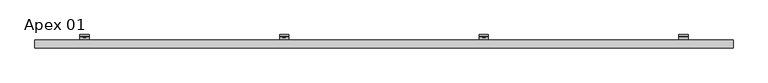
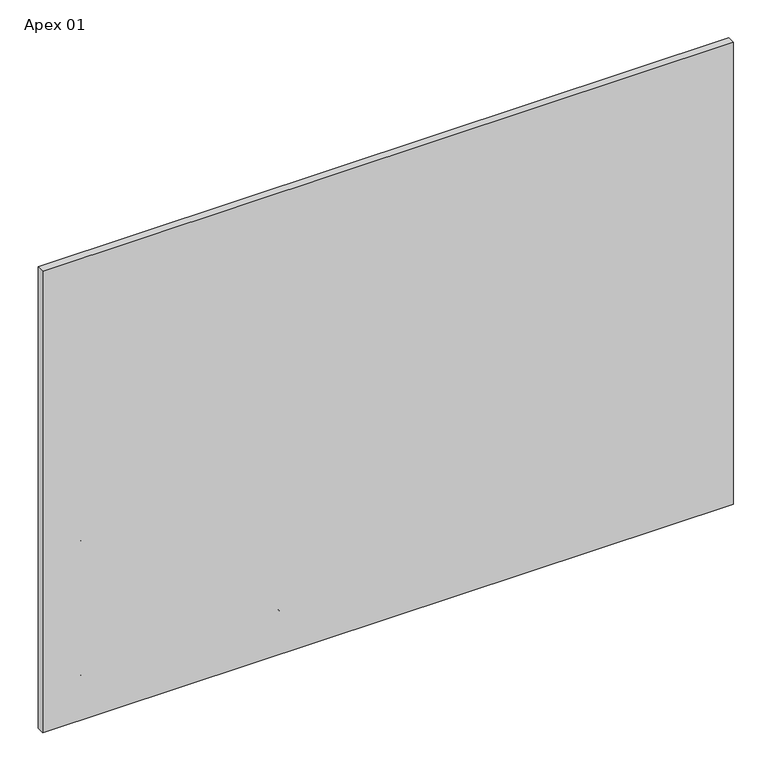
"""IFC4 building model written with IfcOpenShell, lengths in millimetres: plate geometry, Single-Panel-Perforated-Amico_Architectural : Apex 01."""

from ifc_helpers import new_model, si_unit, point, frame, frame_2d, origin, place, context, project, spatial, polyline, circle_curve, trimmed, segment, composite_curve, outline, extrude, source, transform, mapped, element, save
from ifc_brep_helpers import plane_surface, cylinder_surface, revolved_surface, advanced_brep


def apex_01_d99c7350(model_context):
    return source(origin(), model_context, "Body", "SolidModel", [
        advanced_brep(
        [(1209.675, -47.625, 742.6471875), (1209.675, -51.2819443, 734.985155), (1209.675, -89.5163624, 708.2131273), (1209.675, -92.9330442, 711.6298091), (1209.675, -54.3526876, 738.6440656), (1209.675, -52.4002, 742.6472583), (1209.675, -52.4002, 776.8398726), (1209.675, -47.625, 776.8398726), (1247.775, -47.625, 742.6471875), (1247.775, -47.625, 776.8398726), (1247.775, -52.4002, 776.8398726), (1247.775, -52.4002, 742.6472583), (1247.775, -54.3526876, 738.6440656), (1247.775, -92.9330442, 711.6298091), (1247.775, -89.5163624, 708.2131273), (1247.775, -51.2819443, 734.985155), (1235.4661889, -52.4002, 762.7946564), (1235.4661889, -52.4002, 756.4446564), (1219.2383287, -52.4002, 756.4446564), (1219.2383287, -52.4002, 762.7946564), (1235.4661889, -47.625, 756.4446564), (1235.4661889, -47.625, 762.7946564), (1219.2383287, -47.625, 762.7946564), (1219.2383287, -47.625, 756.4446564)],
        [
            (0, 1, circle_curve(frame((1209.675, -57.4802202, 742.6471875), z_axis=(-1.0, 0.0, 0.0), x_axis=(0.0, -1.0, 0.0)), 9.8552202)),
            (1, 2),
            (2, 3),
            (3, 4),
            (4, 5, circle_curve(frame((1209.675, -57.4803246, 742.6472583), z_axis=(1.0, 0.0, 0.0), x_axis=(0.0, -1.0, 0.0)), 5.0801246)),
            (5, 6),
            (6, 7),
            (7, 0),
            (8, 9),
            (9, 10),
            (10, 11),
            (11, 12, circle_curve(frame((1247.775, -57.4803246, 742.6472583), z_axis=(-1.0, 0.0, 0.0), x_axis=(0.0, -1.0, 0.0)), 5.0801246)),
            (12, 13),
            (13, 14),
            (14, 15),
            (15, 8, circle_curve(frame((1247.775, -57.4802202, 742.6471875), z_axis=(1.0, 0.0, 0.0), x_axis=(0.0, -1.0, 0.0)), 9.8552202)),
            (4, 12),
            (11, 5),
            (10, 6),
            (16, 17, circle_curve(frame((1235.4661889, -52.4002, 759.6196564), z_axis=(0.0, 1.0, 0.0), x_axis=(0.0, 0.0, -1.0)), 3.175)),
            (17, 18),
            (18, 19, circle_curve(frame((1219.2383287, -52.4002, 759.6196564), z_axis=(0.0, 1.0, 0.0), x_axis=(0.0, 0.0, -1.0)), 3.175)),
            (19, 16),
            (9, 7),
            (8, 0),
            (20, 21, circle_curve(frame((1235.4661889, -47.625, 759.6196564), z_axis=(0.0, -1.0, 0.0), x_axis=(0.0, 0.0, -1.0)), 3.175)),
            (21, 22),
            (22, 23, circle_curve(frame((1219.2383287, -47.625, 759.6196564), z_axis=(0.0, -1.0, 0.0), x_axis=(0.0, 0.0, -1.0)), 3.175)),
            (23, 20),
            (15, 1),
            (20, 17),
            (16, 21),
            (19, 22),
            (18, 23),
            (14, 2),
            (13, 3),
        ],
        [
            plane_surface(frame((1209.675, -67.3354404, 742.6471875), z_axis=(-1.0, 0.0, 0.0), x_axis=(0.0, 0.0, 1.0))),
            plane_surface(frame((1247.775, -67.3354404, 742.6471875), z_axis=(1.0, 0.0, 0.0), x_axis=(0.0, 0.0, -1.0))),
            revolved_surface(polyline([(1247.775, -62.5604492, 742.6472583), (1209.675, -62.5604492, 742.6472583)]), (1247.775, -57.4803246, 742.6472583), (1.0, 0.0, 0.0)),
            plane_surface(frame((1209.675, -52.4002, 742.6472583), z_axis=(0.0, -1.0, 0.0), x_axis=(1.0, 0.0, 0.0))),
            plane_surface(frame((1209.675, -52.4002, 776.8398726), z_axis=(0.0, 0.0, 1.0), x_axis=(1.0, 0.0, 0.0))),
            plane_surface(frame((1209.675, -47.625, 776.8398726), z_axis=(0.0, 1.0, 6.99569853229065e-12), x_axis=(1.0, 0.0, 0.0))),
            cylinder_surface(frame((1247.775, -57.4802202, 742.6471875), z_axis=(-1.0, 0.0, 0.0), x_axis=(0.0, -1.0, 0.0)), 9.8552202),
            revolved_surface(polyline([(1235.4661889, -52.4002, 756.4446564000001), (1235.4661889, -47.625, 756.4446564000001)]), (1235.4661889, -25.6669948, 759.6196564), (0.0, -1.0, 0.0)),
            plane_surface(frame((1235.4661889, -86.677982, 762.7946564), z_axis=(0.0, 0.0, -1.0), x_axis=(0.0, 1.0, 0.0))),
            revolved_surface(polyline([(1219.2383287, -52.4002, 756.4446564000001), (1219.2383287, -47.625, 756.4446564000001)]), (1219.2383287, -25.6669948, 759.6196564), (0.0, -1.0, 0.0)),
            plane_surface(frame((1219.2383287, -86.677982, 756.4446564), z_axis=(-2.7237733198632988e-11, 0.0, 1.0), x_axis=(0.0, 1.0, 0.0))),
            plane_surface(frame((1209.675, -51.2819443, 734.985155), z_axis=(0.0, 0.5735764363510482, -0.8191520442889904), x_axis=(1.0, 0.0, 0.0))),
            plane_surface(frame((1209.675, -89.5163624, 708.2131273), z_axis=(0.0, -0.7071067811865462, -0.7071067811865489), x_axis=(1.0, 0.0, 0.0))),
            plane_surface(frame((1209.675, -92.9330442, 711.6298091), z_axis=(0.0, -0.5735764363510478, 0.8191520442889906), x_axis=(1.0, 0.0, 0.0))),
        ],
        [
            (0, [[1, 2, 3, 4, 5, 6, 7, 8]]),
            (1, [[9, 10, 11, 12, 13, 14, 15, 16]]),
            (2, [[-5, 17, -12, 18]]),
            (3, [[-6, -18, -11, 19], [20, 21, 22, 23]]),
            (4, [[-7, -19, -10, 24]]),
            (5, [[-8, -24, -9, 25], [26, 27, 28, 29]]),
            (6, [[-1, -25, -16, 30]]),
            (7, [[31, -20, 32, -26]]),
            (8, [[-32, -23, 33, -27]]),
            (9, [[-33, -22, 34, -28]]),
            (10, [[-31, -29, -34, -21]]),
            (11, [[-2, -30, -15, 35]]),
            (12, [[-3, -35, -14, 36]]),
            (13, [[-4, -36, -13, -17]]),
        ],
    ),
        extrude(outline(polyline([(759.7964995, 404.5570034), (755.450787, 407.0660017), (755.450787, 412.0839983), (759.7964995, 414.5929966), (764.1422121, 412.0839983), (764.1422121, 407.0660017), (759.7964995, 404.5570034)])), frame((0.0, -58.7607779, 0.0), z_axis=(0.0, 1.0, 0.0), x_axis=(0.0, 0.0, 1.0)), (0.0, 0.0, 1.0), 11.1357779),
        extrude(outline(composite_curve([segment(trimmed(circle_curve(frame_2d((759.8898065, 409.575)), 6.35), [point((759.8898065, 415.925))], [point((759.8898065, 403.225))], False, "CARTESIAN"), True, "CONTINUOUS"), segment(trimmed(circle_curve(frame_2d((759.8898065, 409.575)), 6.35), [point((759.8898065, 403.225))], [point((759.8898065, 415.925))], False, "CARTESIAN"), True, "CONTINUOUS")], self_intersect=False)), frame((0.0, -57.0817743, 0.0), z_axis=(0.0, 1.0, 0.0), x_axis=(0.0, 0.0, 1.0)), (0.0, 0.0, 1.0), 9.4567743),
        advanced_brep(
        [(390.525, -47.625, 742.6471875), (390.525, -51.2819443, 734.985155), (390.525, -89.5163624, 708.2131273), (390.525, -92.9330442, 711.6298091), (390.525, -54.3526876, 738.6440656), (390.525, -52.4002, 742.6472583), (390.525, -52.4002, 776.8398726), (390.525, -47.625, 776.8398726), (428.625, -47.625, 742.6471875), (428.625, -47.625, 776.8398726), (428.625, -52.4002, 776.8398726), (428.625, -52.4002, 742.6472583), (428.625, -54.3526876, 738.6440656), (428.625, -92.9330442, 711.6298091), (428.625, -89.5163624, 708.2131273), (428.625, -51.2819443, 734.985155), (416.3161889, -52.4002, 762.7946564), (416.3161889, -52.4002, 756.4446564), (400.0883287, -52.4002, 756.4446564), (400.0883287, -52.4002, 762.7946564), (416.3161889, -47.625, 756.4446564), (416.3161889, -47.625, 762.7946564), (400.0883287, -47.625, 762.7946564), (400.0883287, -47.625, 756.4446564)],
        [
            (0, 1, circle_curve(frame((390.525, -57.4802202, 742.6471875), z_axis=(-1.0, 0.0, 0.0), x_axis=(0.0, -1.0, 0.0)), 9.8552202)),
            (1, 2),
            (2, 3),
            (3, 4),
            (4, 5, circle_curve(frame((390.525, -57.4803246, 742.6472583), z_axis=(1.0, 0.0, 0.0), x_axis=(0.0, -1.0, 0.0)), 5.0801246)),
            (5, 6),
            (6, 7),
            (7, 0),
            (8, 9),
            (9, 10),
            (10, 11),
            (11, 12, circle_curve(frame((428.625, -57.4803246, 742.6472583), z_axis=(-1.0, 0.0, 0.0), x_axis=(0.0, -1.0, 0.0)), 5.0801246)),
            (12, 13),
            (13, 14),
            (14, 15),
            (15, 8, circle_curve(frame((428.625, -57.4802202, 742.6471875), z_axis=(1.0, 0.0, 0.0), x_axis=(0.0, -1.0, 0.0)), 9.8552202)),
            (4, 12),
            (11, 5),
            (10, 6),
            (16, 17, circle_curve(frame((416.3161889, -52.4002, 759.6196564), z_axis=(0.0, 1.0, 0.0), x_axis=(0.0, 0.0, -1.0)), 3.175)),
            (17, 18),
            (18, 19, circle_curve(frame((400.0883287, -52.4002, 759.6196564), z_axis=(0.0, 1.0, 0.0), x_axis=(0.0, 0.0, -1.0)), 3.175)),
            (19, 16),
            (9, 7),
            (8, 0),
            (20, 21, circle_curve(frame((416.3161889, -47.625, 759.6196564), z_axis=(0.0, -1.0, 0.0), x_axis=(0.0, 0.0, -1.0)), 3.175)),
            (21, 22),
            (22, 23, circle_curve(frame((400.0883287, -47.625, 759.6196564), z_axis=(0.0, -1.0, 0.0), x_axis=(0.0, 0.0, -1.0)), 3.175)),
            (23, 20),
            (15, 1),
            (20, 17),
            (16, 21),
            (19, 22),
            (18, 23),
            (14, 2),
            (13, 3),
        ],
        [
            plane_surface(frame((390.525, -67.3354404, 742.6471875), z_axis=(-1.0, 0.0, 0.0), x_axis=(0.0, 0.0, 1.0))),
            plane_surface(frame((428.625, -67.3354404, 742.6471875), z_axis=(1.0, 0.0, 0.0), x_axis=(0.0, 0.0, -1.0))),
            revolved_surface(polyline([(428.625, -62.5604492, 742.6472583), (390.525, -62.5604492, 742.6472583)]), (428.625, -57.4803246, 742.6472583), (1.0, 0.0, 0.0)),
            plane_surface(frame((390.525, -52.4002, 742.6472583), z_axis=(0.0, -1.0, 0.0), x_axis=(1.0, 0.0, 0.0))),
            plane_surface(frame((390.525, -52.4002, 776.8398726), z_axis=(0.0, 0.0, 1.0), x_axis=(1.0, 0.0, 0.0))),
            plane_surface(frame((390.525, -47.625, 776.8398726), z_axis=(0.0, 1.0, 6.99569853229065e-12), x_axis=(1.0, 0.0, 0.0))),
            cylinder_surface(frame((428.625, -57.4802202, 742.6471875), z_axis=(-1.0, 0.0, 0.0), x_axis=(0.0, -1.0, 0.0)), 9.8552202),
            revolved_surface(polyline([(416.3161889, -52.4002, 756.4446564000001), (416.3161889, -47.625, 756.4446564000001)]), (416.3161889, -25.6669948, 759.6196564), (0.0, -1.0, 0.0)),
            plane_surface(frame((416.3161889, -86.677982, 762.7946564), z_axis=(0.0, 0.0, -1.0), x_axis=(0.0, 1.0, 0.0))),
            revolved_surface(polyline([(400.0883287, -52.4002, 756.4446564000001), (400.0883287, -47.625, 756.4446564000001)]), (400.0883287, -25.6669948, 759.6196564), (0.0, -1.0, 0.0)),
            plane_surface(frame((400.0883287, -86.677982, 756.4446564), z_axis=(-2.7237733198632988e-11, 0.0, 1.0), x_axis=(0.0, 1.0, 0.0))),
            plane_surface(frame((390.525, -51.2819443, 734.985155), z_axis=(0.0, 0.5735764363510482, -0.8191520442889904), x_axis=(1.0, 0.0, 0.0))),
            plane_surface(frame((390.525, -89.5163624, 708.2131273), z_axis=(0.0, -0.7071067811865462, -0.7071067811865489), x_axis=(1.0, 0.0, 0.0))),
            plane_surface(frame((390.525, -92.9330442, 711.6298091), z_axis=(0.0, -0.5735764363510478, 0.8191520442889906), x_axis=(1.0, 0.0, 0.0))),
        ],
        [
            (0, [[1, 2, 3, 4, 5, 6, 7, 8]]),
            (1, [[9, 10, 11, 12, 13, 14, 15, 16]]),
            (2, [[-5, 17, -12, 18]]),
            (3, [[-6, -18, -11, 19], [20, 21, 22, 23]]),
            (4, [[-7, -19, -10, 24]]),
            (5, [[-8, -24, -9, 25], [26, 27, 28, 29]]),
            (6, [[-1, -25, -16, 30]]),
            (7, [[31, -20, 32, -26]]),
            (8, [[-32, -23, 33, -27]]),
            (9, [[-33, -22, 34, -28]]),
            (10, [[-31, -29, -34, -21]]),
            (11, [[-2, -30, -15, 35]]),
            (12, [[-3, -35, -14, 36]]),
            (13, [[-4, -36, -13, -17]]),
        ],
    ),
        extrude(outline(polyline([(759.7964995, -414.5929966), (755.450787, -412.0839983), (755.450787, -407.0660017), (759.7964995, -404.5570034), (764.1422121, -407.0660017), (764.1422121, -412.0839983), (759.7964995, -414.5929966)])), frame((0.0, -58.7607779, 0.0), z_axis=(0.0, 1.0, 0.0), x_axis=(0.0, 0.0, 1.0)), (0.0, 0.0, 1.0), 11.1357779),
        extrude(outline(composite_curve([segment(trimmed(circle_curve(frame_2d((759.8898065, -409.575)), 6.35), [point((759.8898065, -403.225))], [point((759.8898065, -415.925))], False, "CARTESIAN"), True, "CONTINUOUS"), segment(trimmed(circle_curve(frame_2d((759.8898065, -409.575)), 6.35), [point((759.8898065, -415.925))], [point((759.8898065, -403.225))], False, "CARTESIAN"), True, "CONTINUOUS")], self_intersect=False)), frame((0.0, -57.0817743, 0.0), z_axis=(0.0, 1.0, 0.0), x_axis=(0.0, 0.0, 1.0)), (0.0, 0.0, 1.0), 9.4567743),
        advanced_brep(
        [(-428.625, -47.625, 742.6471875), (-428.625, -51.2819443, 734.985155), (-428.625, -89.5163624, 708.2131273), (-428.625, -92.9330442, 711.6298091), (-428.625, -54.3526876, 738.6440656), (-428.625, -52.4002, 742.6472583), (-428.625, -52.4002, 776.8398726), (-428.625, -47.625, 776.8398726), (-390.525, -47.625, 742.6471875), (-390.525, -47.625, 776.8398726), (-390.525, -52.4002, 776.8398726), (-390.525, -52.4002, 742.6472583), (-390.525, -54.3526876, 738.6440656), (-390.525, -92.9330442, 711.6298091), (-390.525, -89.5163624, 708.2131273), (-390.525, -51.2819443, 734.985155), (-402.8338111, -52.4002, 762.7946564), (-402.8338111, -52.4002, 756.4446564), (-419.0616713, -52.4002, 756.4446564), (-419.0616713, -52.4002, 762.7946564), (-402.8338111, -47.625, 756.4446564), (-402.8338111, -47.625, 762.7946564), (-419.0616713, -47.625, 762.7946564), (-419.0616713, -47.625, 756.4446564)],
        [
            (0, 1, circle_curve(frame((-428.625, -57.4802202, 742.6471875), z_axis=(-1.0, 0.0, 0.0), x_axis=(0.0, -1.0, 0.0)), 9.8552202)),
            (1, 2),
            (2, 3),
            (3, 4),
            (4, 5, circle_curve(frame((-428.625, -57.4803246, 742.6472583), z_axis=(1.0, 0.0, 0.0), x_axis=(0.0, -1.0, 0.0)), 5.0801246)),
            (5, 6),
            (6, 7),
            (7, 0),
            (8, 9),
            (9, 10),
            (10, 11),
            (11, 12, circle_curve(frame((-390.525, -57.4803246, 742.6472583), z_axis=(-1.0, 0.0, 0.0), x_axis=(0.0, -1.0, 0.0)), 5.0801246)),
            (12, 13),
            (13, 14),
            (14, 15),
            (15, 8, circle_curve(frame((-390.525, -57.4802202, 742.6471875), z_axis=(1.0, 0.0, 0.0), x_axis=(0.0, -1.0, 0.0)), 9.8552202)),
            (4, 12),
            (11, 5),
            (10, 6),
            (16, 17, circle_curve(frame((-402.8338111, -52.4002, 759.6196564), z_axis=(0.0, 1.0, 0.0), x_axis=(0.0, 0.0, -1.0)), 3.175)),
            (17, 18),
            (18, 19, circle_curve(frame((-419.0616713, -52.4002, 759.6196564), z_axis=(0.0, 1.0, 0.0), x_axis=(0.0, 0.0, -1.0)), 3.175)),
            (19, 16),
            (9, 7),
            (8, 0),
            (20, 21, circle_curve(frame((-402.8338111, -47.625, 759.6196564), z_axis=(0.0, -1.0, 0.0), x_axis=(0.0, 0.0, -1.0)), 3.175)),
            (21, 22),
            (22, 23, circle_curve(frame((-419.0616713, -47.625, 759.6196564), z_axis=(0.0, -1.0, 0.0), x_axis=(0.0, 0.0, -1.0)), 3.175)),
            (23, 20),
            (15, 1),
            (20, 17),
            (16, 21),
            (19, 22),
            (18, 23),
            (14, 2),
            (13, 3),
        ],
        [
            plane_surface(frame((-428.625, -67.3354404, 742.6471875), z_axis=(-1.0, 0.0, 0.0), x_axis=(0.0, 0.0, 1.0))),
            plane_surface(frame((-390.525, -67.3354404, 742.6471875), z_axis=(1.0, 0.0, 0.0), x_axis=(0.0, 0.0, -1.0))),
            revolved_surface(polyline([(-390.525, -62.5604492, 742.6472583), (-428.625, -62.5604492, 742.6472583)]), (-390.525, -57.4803246, 742.6472583), (1.0, 0.0, 0.0)),
            plane_surface(frame((-428.625, -52.4002, 742.6472583), z_axis=(0.0, -1.0, 0.0), x_axis=(1.0, 0.0, 0.0))),
            plane_surface(frame((-428.625, -52.4002, 776.8398726), z_axis=(0.0, 0.0, 1.0), x_axis=(1.0, 0.0, 0.0))),
            plane_surface(frame((-428.625, -47.625, 776.8398726), z_axis=(0.0, 1.0, 6.99569853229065e-12), x_axis=(1.0, 0.0, 0.0))),
            cylinder_surface(frame((-390.525, -57.4802202, 742.6471875), z_axis=(-1.0, 0.0, 0.0), x_axis=(0.0, -1.0, 0.0)), 9.8552202),
            revolved_surface(polyline([(-402.8338111, -52.4002, 756.4446564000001), (-402.8338111, -47.625, 756.4446564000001)]), (-402.8338111, -25.6669948, 759.6196564), (0.0, -1.0, 0.0)),
            plane_surface(frame((-402.8338111, -86.677982, 762.7946564), z_axis=(0.0, 0.0, -1.0), x_axis=(0.0, 1.0, 0.0))),
            revolved_surface(polyline([(-419.0616713, -52.4002, 756.4446564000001), (-419.0616713, -47.625, 756.4446564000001)]), (-419.0616713, -25.6669948, 759.6196564), (0.0, -1.0, 0.0)),
            plane_surface(frame((-419.0616713, -86.677982, 756.4446564), z_axis=(-2.7237733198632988e-11, 0.0, 1.0), x_axis=(0.0, 1.0, 0.0))),
            plane_surface(frame((-428.625, -51.2819443, 734.985155), z_axis=(0.0, 0.5735764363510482, -0.8191520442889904), x_axis=(1.0, 0.0, 0.0))),
            plane_surface(frame((-428.625, -89.5163624, 708.2131273), z_axis=(0.0, -0.7071067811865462, -0.7071067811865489), x_axis=(1.0, 0.0, 0.0))),
            plane_surface(frame((-428.625, -92.9330442, 711.6298091), z_axis=(0.0, -0.5735764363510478, 0.8191520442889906), x_axis=(1.0, 0.0, 0.0))),
        ],
        [
            (0, [[1, 2, 3, 4, 5, 6, 7, 8]]),
            (1, [[9, 10, 11, 12, 13, 14, 15, 16]]),
            (2, [[-5, 17, -12, 18]]),
            (3, [[-6, -18, -11, 19], [20, 21, 22, 23]]),
            (4, [[-7, -19, -10, 24]]),
            (5, [[-8, -24, -9, 25], [26, 27, 28, 29]]),
            (6, [[-1, -25, -16, 30]]),
            (7, [[31, -20, 32, -26]]),
            (8, [[-32, -23, 33, -27]]),
            (9, [[-33, -22, 34, -28]]),
            (10, [[-31, -29, -34, -21]]),
            (11, [[-2, -30, -15, 35]]),
            (12, [[-3, -35, -14, 36]]),
            (13, [[-4, -36, -13, -17]]),
        ],
    ),
        extrude(outline(polyline([(759.7964995, -1233.7429966), (755.450787, -1231.2339983), (755.450787, -1226.2160017), (759.7964995, -1223.7070034), (764.1422121, -1226.2160017), (764.1422121, -1231.2339983), (759.7964995, -1233.7429966)])), frame((0.0, -58.7607779, 0.0), z_axis=(0.0, 1.0, 0.0), x_axis=(0.0, 0.0, 1.0)), (0.0, 0.0, 1.0), 11.1357779),
        extrude(outline(composite_curve([segment(trimmed(circle_curve(frame_2d((759.8898065, -1228.725)), 6.35), [point((759.8898065, -1222.375))], [point((759.8898065, -1235.075))], False, "CARTESIAN"), True, "CONTINUOUS"), segment(trimmed(circle_curve(frame_2d((759.8898065, -1228.725)), 6.35), [point((759.8898065, -1235.075))], [point((759.8898065, -1222.375))], False, "CARTESIAN"), True, "CONTINUOUS")], self_intersect=False)), frame((0.0, -57.0817743, 0.0), z_axis=(0.0, 1.0, 0.0), x_axis=(0.0, 0.0, 1.0)), (0.0, 0.0, 1.0), 9.4567743),
        advanced_brep(
        [(-1247.775, -47.625, 742.6471875), (-1247.775, -51.2819443, 734.985155), (-1247.775, -89.5163624, 708.2131273), (-1247.775, -92.9330442, 711.6298091), (-1247.775, -54.3526876, 738.6440656), (-1247.775, -52.4002, 742.6472583), (-1247.775, -52.4002, 776.8398726), (-1247.775, -47.625, 776.8398726), (-1209.675, -47.625, 742.6471875), (-1209.675, -47.625, 776.8398726), (-1209.675, -52.4002, 776.8398726), (-1209.675, -52.4002, 742.6472583), (-1209.675, -54.3526876, 738.6440656), (-1209.675, -92.9330442, 711.6298091), (-1209.675, -89.5163624, 708.2131273), (-1209.675, -51.2819443, 734.985155), (-1221.9838111, -52.4002, 762.7946564), (-1221.9838111, -52.4002, 756.4446564), (-1238.2116713, -52.4002, 756.4446564), (-1238.2116713, -52.4002, 762.7946564), (-1221.9838111, -47.625, 756.4446564), (-1221.9838111, -47.625, 762.7946564), (-1238.2116713, -47.625, 762.7946564), (-1238.2116713, -47.625, 756.4446564)],
        [
            (0, 1, circle_curve(frame((-1247.775, -57.4802202, 742.6471875), z_axis=(-1.0, 0.0, 0.0), x_axis=(0.0, -1.0, 0.0)), 9.8552202)),
            (1, 2),
            (2, 3),
            (3, 4),
            (4, 5, circle_curve(frame((-1247.775, -57.4803246, 742.6472583), z_axis=(1.0, 0.0, 0.0), x_axis=(0.0, -1.0, 0.0)), 5.0801246)),
            (5, 6),
            (6, 7),
            (7, 0),
            (8, 9),
            (9, 10),
            (10, 11),
            (11, 12, circle_curve(frame((-1209.675, -57.4803246, 742.6472583), z_axis=(-1.0, 0.0, 0.0), x_axis=(0.0, -1.0, 0.0)), 5.0801246)),
            (12, 13),
            (13, 14),
            (14, 15),
            (15, 8, circle_curve(frame((-1209.675, -57.4802202, 742.6471875), z_axis=(1.0, 0.0, 0.0), x_axis=(0.0, -1.0, 0.0)), 9.8552202)),
            (4, 12),
            (11, 5),
            (10, 6),
            (16, 17, circle_curve(frame((-1221.9838111, -52.4002, 759.6196564), z_axis=(0.0, 1.0, 0.0), x_axis=(0.0, 0.0, -1.0)), 3.175)),
            (17, 18),
            (18, 19, circle_curve(frame((-1238.2116713, -52.4002, 759.6196564), z_axis=(0.0, 1.0, 0.0), x_axis=(0.0, 0.0, -1.0)), 3.175)),
            (19, 16),
            (9, 7),
            (8, 0),
            (20, 21, circle_curve(frame((-1221.9838111, -47.625, 759.6196564), z_axis=(0.0, -1.0, 0.0), x_axis=(0.0, 0.0, -1.0)), 3.175)),
            (21, 22),
            (22, 23, circle_curve(frame((-1238.2116713, -47.625, 759.6196564), z_axis=(0.0, -1.0, 0.0), x_axis=(0.0, 0.0, -1.0)), 3.175)),
            (23, 20),
            (15, 1),
            (20, 17),
            (16, 21),
            (19, 22),
            (18, 23),
            (14, 2),
            (13, 3),
        ],
        [
            plane_surface(frame((-1247.775, -67.3354404, 742.6471875), z_axis=(-1.0, 0.0, 0.0), x_axis=(0.0, 0.0, 1.0))),
            plane_surface(frame((-1209.675, -67.3354404, 742.6471875), z_axis=(1.0, 0.0, 0.0), x_axis=(0.0, 0.0, -1.0))),
            revolved_surface(polyline([(-1209.675, -62.5604492, 742.6472583), (-1247.775, -62.5604492, 742.6472583)]), (-1209.675, -57.4803246, 742.6472583), (1.0, 0.0, 0.0)),
            plane_surface(frame((-1247.775, -52.4002, 742.6472583), z_axis=(0.0, -1.0, 0.0), x_axis=(1.0, 0.0, 0.0))),
            plane_surface(frame((-1247.775, -52.4002, 776.8398726), z_axis=(0.0, 0.0, 1.0), x_axis=(1.0, 0.0, 0.0))),
            plane_surface(frame((-1247.775, -47.625, 776.8398726), z_axis=(0.0, 1.0, 6.99569853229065e-12), x_axis=(1.0, 0.0, 0.0))),
            cylinder_surface(frame((-1209.675, -57.4802202, 742.6471875), z_axis=(-1.0, 0.0, 0.0), x_axis=(0.0, -1.0, 0.0)), 9.8552202),
            revolved_surface(polyline([(-1221.9838111, -52.4002, 756.4446564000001), (-1221.9838111, -47.625, 756.4446564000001)]), (-1221.9838111, -25.6669948, 759.6196564), (0.0, -1.0, 0.0)),
            plane_surface(frame((-1221.9838111, -86.677982, 762.7946564), z_axis=(0.0, 0.0, -1.0), x_axis=(0.0, 1.0, 0.0))),
            revolved_surface(polyline([(-1238.2116713, -52.4002, 756.4446564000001), (-1238.2116713, -47.625, 756.4446564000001)]), (-1238.2116713, -25.6669948, 759.6196564), (0.0, -1.0, 0.0)),
            plane_surface(frame((-1238.2116713, -86.677982, 756.4446564), z_axis=(-2.7237733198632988e-11, 0.0, 1.0), x_axis=(0.0, 1.0, 0.0))),
            plane_surface(frame((-1247.775, -51.2819443, 734.985155), z_axis=(0.0, 0.5735764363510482, -0.8191520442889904), x_axis=(1.0, 0.0, 0.0))),
            plane_surface(frame((-1247.775, -89.5163624, 708.2131273), z_axis=(0.0, -0.7071067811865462, -0.7071067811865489), x_axis=(1.0, 0.0, 0.0))),
            plane_surface(frame((-1247.775, -92.9330442, 711.6298091), z_axis=(0.0, -0.5735764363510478, 0.8191520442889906), x_axis=(1.0, 0.0, 0.0))),
        ],
        [
            (0, [[1, 2, 3, 4, 5, 6, 7, 8]]),
            (1, [[9, 10, 11, 12, 13, 14, 15, 16]]),
            (2, [[-5, 17, -12, 18]]),
            (3, [[-6, -18, -11, 19], [20, 21, 22, 23]]),
            (4, [[-7, -19, -10, 24]]),
            (5, [[-8, -24, -9, 25], [26, 27, 28, 29]]),
            (6, [[-1, -25, -16, 30]]),
            (7, [[31, -20, 32, -26]]),
            (8, [[-32, -23, 33, -27]]),
            (9, [[-33, -22, 34, -28]]),
            (10, [[-31, -29, -34, -21]]),
            (11, [[-2, -30, -15, 35]]),
            (12, [[-3, -35, -14, 36]]),
            (13, [[-4, -36, -13, -17]]),
        ],
    ),
        extrude(outline(polyline([(169.8795323, 1223.7070034), (165.5338197, 1226.2160017), (165.5338197, 1231.2339983), (169.8795323, 1233.7429966), (174.2252448, 1231.2339983), (174.2252448, 1226.2160017), (169.8795323, 1223.7070034)])), frame((0.0, -58.7607779, 0.0), z_axis=(0.0, 1.0, 0.0), x_axis=(0.0, 0.0, 1.0)), (0.0, 0.0, 1.0), 11.1357779),
        extrude(outline(composite_curve([segment(trimmed(circle_curve(frame_2d((169.9728392, 1228.725)), 6.35), [point((169.9728392, 1235.075))], [point((169.9728392, 1222.375))], False, "CARTESIAN"), True, "CONTINUOUS"), segment(trimmed(circle_curve(frame_2d((169.9728392, 1228.725)), 6.35), [point((169.9728392, 1222.375))], [point((169.9728392, 1235.075))], False, "CARTESIAN"), True, "CONTINUOUS")], self_intersect=False)), frame((0.0, -57.0817743, 0.0), z_axis=(0.0, 1.0, 0.0), x_axis=(0.0, 0.0, 1.0)), (0.0, 0.0, 1.0), 9.4567743),
        advanced_brep(
        [(1209.675, -47.625, 152.7302202), (1209.675, -51.2819443, 145.0681877), (1209.675, -89.5163624, 118.29616), (1209.675, -92.9330442, 121.7128418), (1209.675, -54.3526876, 148.7270983), (1209.675, -52.4002, 152.7302911), (1209.675, -52.4002, 186.9229053), (1209.675, -47.625, 186.9229053), (1247.775, -47.625, 152.7302202), (1247.775, -47.625, 186.9229053), (1247.775, -52.4002, 186.9229053), (1247.775, -52.4002, 152.7302911), (1247.775, -54.3526876, 148.7270983), (1247.775, -92.9330442, 121.7128418), (1247.775, -89.5163624, 118.29616), (1247.775, -51.2819443, 145.0681877), (1235.4661889, -52.4002, 172.8776891), (1235.4661889, -52.4002, 166.5276891), (1219.2383287, -52.4002, 166.5276891), (1219.2383287, -52.4002, 172.8776891), (1235.4661889, -47.625, 166.5276891), (1235.4661889, -47.625, 172.8776891), (1219.2383287, -47.625, 172.8776891), (1219.2383287, -47.625, 166.5276891)],
        [
            (0, 1, circle_curve(frame((1209.675, -57.4802202, 152.7302202), z_axis=(-1.0, 0.0, 0.0), x_axis=(0.0, -1.0, 0.0)), 9.8552202)),
            (1, 2),
            (2, 3),
            (3, 4),
            (4, 5, circle_curve(frame((1209.675, -57.4803246, 152.7302911), z_axis=(1.0, 0.0, 0.0), x_axis=(0.0, -1.0, 0.0)), 5.0801246)),
            (5, 6),
            (6, 7),
            (7, 0),
            (8, 9),
            (9, 10),
            (10, 11),
            (11, 12, circle_curve(frame((1247.775, -57.4803246, 152.7302911), z_axis=(-1.0, 0.0, 0.0), x_axis=(0.0, -1.0, 0.0)), 5.0801246)),
            (12, 13),
            (13, 14),
            (14, 15),
            (15, 8, circle_curve(frame((1247.775, -57.4802202, 152.7302202), z_axis=(1.0, 0.0, 0.0), x_axis=(0.0, -1.0, 0.0)), 9.8552202)),
            (4, 12),
            (11, 5),
            (10, 6),
            (16, 17, circle_curve(frame((1235.4661889, -52.4002, 169.7026891), z_axis=(0.0, 1.0, 0.0), x_axis=(0.0, 0.0, -1.0)), 3.175)),
            (17, 18),
            (18, 19, circle_curve(frame((1219.2383287, -52.4002, 169.7026891), z_axis=(0.0, 1.0, 0.0), x_axis=(0.0, 0.0, -1.0)), 3.175)),
            (19, 16),
            (9, 7),
            (8, 0),
            (20, 21, circle_curve(frame((1235.4661889, -47.625, 169.7026891), z_axis=(0.0, -1.0, 0.0), x_axis=(0.0, 0.0, -1.0)), 3.175)),
            (21, 22),
            (22, 23, circle_curve(frame((1219.2383287, -47.625, 169.7026891), z_axis=(0.0, -1.0, 0.0), x_axis=(0.0, 0.0, -1.0)), 3.175)),
            (23, 20),
            (15, 1),
            (20, 17),
            (16, 21),
            (19, 22),
            (18, 23),
            (14, 2),
            (13, 3),
        ],
        [
            plane_surface(frame((1209.675, -67.3354404, 152.7302202), z_axis=(-1.0, 0.0, 0.0), x_axis=(0.0, 0.0, 1.0))),
            plane_surface(frame((1247.775, -67.3354404, 152.7302202), z_axis=(1.0, 0.0, 0.0), x_axis=(0.0, 0.0, -1.0))),
            revolved_surface(polyline([(1247.775, -62.5604492, 152.7302911), (1209.675, -62.5604492, 152.7302911)]), (1247.775, -57.4803246, 152.7302911), (1.0, 0.0, 0.0)),
            plane_surface(frame((1209.675, -52.4002, 152.7302911), z_axis=(0.0, -1.0, 0.0), x_axis=(1.0, 0.0, 0.0))),
            plane_surface(frame((1209.675, -52.4002, 186.9229053), z_axis=(0.0, 0.0, 1.0), x_axis=(1.0, 0.0, 0.0))),
            plane_surface(frame((1209.675, -47.625, 186.9229053), z_axis=(0.0, 1.0, 6.99569853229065e-12), x_axis=(1.0, 0.0, 0.0))),
            cylinder_surface(frame((1247.775, -57.4802202, 152.7302202), z_axis=(-1.0, 0.0, 0.0), x_axis=(0.0, -1.0, 0.0)), 9.8552202),
            revolved_surface(polyline([(1235.4661889, -52.4002, 166.52768909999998), (1235.4661889, -47.625, 166.52768909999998)]), (1235.4661889, -25.6669948, 169.7026891), (0.0, -1.0, 0.0)),
            plane_surface(frame((1235.4661889, -86.677982, 172.8776891), z_axis=(0.0, 0.0, -1.0), x_axis=(0.0, 1.0, 0.0))),
            revolved_surface(polyline([(1219.2383287, -52.4002, 166.52768909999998), (1219.2383287, -47.625, 166.52768909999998)]), (1219.2383287, -25.6669948, 169.7026891), (0.0, -1.0, 0.0)),
            plane_surface(frame((1219.2383287, -86.677982, 166.5276891), z_axis=(-2.723774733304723e-11, 0.0, 1.0), x_axis=(0.0, 1.0, 0.0))),
            plane_surface(frame((1209.675, -51.2819443, 145.0681877), z_axis=(0.0, 0.5735764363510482, -0.8191520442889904), x_axis=(1.0, 0.0, 0.0))),
            plane_surface(frame((1209.675, -89.5163624, 118.29616), z_axis=(0.0, -0.7071067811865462, -0.7071067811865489), x_axis=(1.0, 0.0, 0.0))),
            plane_surface(frame((1209.675, -92.9330442, 121.7128418), z_axis=(0.0, -0.5735764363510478, 0.8191520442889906), x_axis=(1.0, 0.0, 0.0))),
        ],
        [
            (0, [[1, 2, 3, 4, 5, 6, 7, 8]]),
            (1, [[9, 10, 11, 12, 13, 14, 15, 16]]),
            (2, [[-5, 17, -12, 18]]),
            (3, [[-6, -18, -11, 19], [20, 21, 22, 23]]),
            (4, [[-7, -19, -10, 24]]),
            (5, [[-8, -24, -9, 25], [26, 27, 28, 29]]),
            (6, [[-1, -25, -16, 30]]),
            (7, [[31, -20, 32, -26]]),
            (8, [[-32, -23, 33, -27]]),
            (9, [[-33, -22, 34, -28]]),
            (10, [[-31, -29, -34, -21]]),
            (11, [[-2, -30, -15, 35]]),
            (12, [[-3, -35, -14, 36]]),
            (13, [[-4, -36, -13, -17]]),
        ],
    ),
        extrude(outline(polyline([(169.8795323, 404.5570034), (165.5338197, 407.0660017), (165.5338197, 412.0839983), (169.8795323, 414.5929966), (174.2252448, 412.0839983), (174.2252448, 407.0660017), (169.8795323, 404.5570034)])), frame((0.0, -58.7607779, 0.0), z_axis=(0.0, 1.0, 0.0), x_axis=(0.0, 0.0, 1.0)), (0.0, 0.0, 1.0), 11.1357779),
        extrude(outline(composite_curve([segment(trimmed(circle_curve(frame_2d((169.9728392, 409.575)), 6.35), [point((169.9728392, 415.925))], [point((169.9728392, 403.225))], False, "CARTESIAN"), True, "CONTINUOUS"), segment(trimmed(circle_curve(frame_2d((169.9728392, 409.575)), 6.35), [point((169.9728392, 403.225))], [point((169.9728392, 415.925))], False, "CARTESIAN"), True, "CONTINUOUS")], self_intersect=False)), frame((0.0, -57.0817743, 0.0), z_axis=(0.0, 1.0, 0.0), x_axis=(0.0, 0.0, 1.0)), (0.0, 0.0, 1.0), 9.4567743),
        advanced_brep(
        [(390.525, -47.625, 152.7302202), (390.525, -51.2819443, 145.0681877), (390.525, -89.5163624, 118.29616), (390.525, -92.9330442, 121.7128418), (390.525, -54.3526876, 148.7270983), (390.525, -52.4002, 152.7302911), (390.525, -52.4002, 186.9229053), (390.525, -47.625, 186.9229053), (428.625, -47.625, 152.7302202), (428.625, -47.625, 186.9229053), (428.625, -52.4002, 186.9229053), (428.625, -52.4002, 152.7302911), (428.625, -54.3526876, 148.7270983), (428.625, -92.9330442, 121.7128418), (428.625, -89.5163624, 118.29616), (428.625, -51.2819443, 145.0681877), (416.3161889, -52.4002, 172.8776891), (416.3161889, -52.4002, 166.5276891), (400.0883287, -52.4002, 166.5276891), (400.0883287, -52.4002, 172.8776891), (416.3161889, -47.625, 166.5276891), (416.3161889, -47.625, 172.8776891), (400.0883287, -47.625, 172.8776891), (400.0883287, -47.625, 166.5276891)],
        [
            (0, 1, circle_curve(frame((390.525, -57.4802202, 152.7302202), z_axis=(-1.0, 0.0, 0.0), x_axis=(0.0, -1.0, 0.0)), 9.8552202)),
            (1, 2),
            (2, 3),
            (3, 4),
            (4, 5, circle_curve(frame((390.525, -57.4803246, 152.7302911), z_axis=(1.0, 0.0, 0.0), x_axis=(0.0, -1.0, 0.0)), 5.0801246)),
            (5, 6),
            (6, 7),
            (7, 0),
            (8, 9),
            (9, 10),
            (10, 11),
            (11, 12, circle_curve(frame((428.625, -57.4803246, 152.7302911), z_axis=(-1.0, 0.0, 0.0), x_axis=(0.0, -1.0, 0.0)), 5.0801246)),
            (12, 13),
            (13, 14),
            (14, 15),
            (15, 8, circle_curve(frame((428.625, -57.4802202, 152.7302202), z_axis=(1.0, 0.0, 0.0), x_axis=(0.0, -1.0, 0.0)), 9.8552202)),
            (4, 12),
            (11, 5),
            (10, 6),
            (16, 17, circle_curve(frame((416.3161889, -52.4002, 169.7026891), z_axis=(0.0, 1.0, 0.0), x_axis=(0.0, 0.0, -1.0)), 3.175)),
            (17, 18),
            (18, 19, circle_curve(frame((400.0883287, -52.4002, 169.7026891), z_axis=(0.0, 1.0, 0.0), x_axis=(0.0, 0.0, -1.0)), 3.175)),
            (19, 16),
            (9, 7),
            (8, 0),
            (20, 21, circle_curve(frame((416.3161889, -47.625, 169.7026891), z_axis=(0.0, -1.0, 0.0), x_axis=(0.0, 0.0, -1.0)), 3.175)),
            (21, 22),
            (22, 23, circle_curve(frame((400.0883287, -47.625, 169.7026891), z_axis=(0.0, -1.0, 0.0), x_axis=(0.0, 0.0, -1.0)), 3.175)),
            (23, 20),
            (15, 1),
            (20, 17),
            (16, 21),
            (19, 22),
            (18, 23),
            (14, 2),
            (13, 3),
        ],
        [
            plane_surface(frame((390.525, -67.3354404, 152.7302202), z_axis=(-1.0, 0.0, 0.0), x_axis=(0.0, 0.0, 1.0))),
            plane_surface(frame((428.625, -67.3354404, 152.7302202), z_axis=(1.0, 0.0, 0.0), x_axis=(0.0, 0.0, -1.0))),
            revolved_surface(polyline([(428.625, -62.5604492, 152.7302911), (390.525, -62.5604492, 152.7302911)]), (428.625, -57.4803246, 152.7302911), (1.0, 0.0, 0.0)),
            plane_surface(frame((390.525, -52.4002, 152.7302911), z_axis=(0.0, -1.0, 0.0), x_axis=(1.0, 0.0, 0.0))),
            plane_surface(frame((390.525, -52.4002, 186.9229053), z_axis=(0.0, 0.0, 1.0), x_axis=(1.0, 0.0, 0.0))),
            plane_surface(frame((390.525, -47.625, 186.9229053), z_axis=(0.0, 1.0, 6.99569853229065e-12), x_axis=(1.0, 0.0, 0.0))),
            cylinder_surface(frame((428.625, -57.4802202, 152.7302202), z_axis=(-1.0, 0.0, 0.0), x_axis=(0.0, -1.0, 0.0)), 9.8552202),
            revolved_surface(polyline([(416.3161889, -52.4002, 166.52768909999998), (416.3161889, -47.625, 166.52768909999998)]), (416.3161889, -25.6669948, 169.7026891), (0.0, -1.0, 0.0)),
            plane_surface(frame((416.3161889, -86.677982, 172.8776891), z_axis=(0.0, 0.0, -1.0), x_axis=(0.0, 1.0, 0.0))),
            revolved_surface(polyline([(400.0883287, -52.4002, 166.52768909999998), (400.0883287, -47.625, 166.52768909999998)]), (400.0883287, -25.6669948, 169.7026891), (0.0, -1.0, 0.0)),
            plane_surface(frame((400.0883287, -86.677982, 166.5276891), z_axis=(-2.723774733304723e-11, 0.0, 1.0), x_axis=(0.0, 1.0, 0.0))),
            plane_surface(frame((390.525, -51.2819443, 145.0681877), z_axis=(0.0, 0.5735764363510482, -0.8191520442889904), x_axis=(1.0, 0.0, 0.0))),
            plane_surface(frame((390.525, -89.5163624, 118.29616), z_axis=(0.0, -0.7071067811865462, -0.7071067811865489), x_axis=(1.0, 0.0, 0.0))),
            plane_surface(frame((390.525, -92.9330442, 121.7128418), z_axis=(0.0, -0.5735764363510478, 0.8191520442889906), x_axis=(1.0, 0.0, 0.0))),
        ],
        [
            (0, [[1, 2, 3, 4, 5, 6, 7, 8]]),
            (1, [[9, 10, 11, 12, 13, 14, 15, 16]]),
            (2, [[-5, 17, -12, 18]]),
            (3, [[-6, -18, -11, 19], [20, 21, 22, 23]]),
            (4, [[-7, -19, -10, 24]]),
            (5, [[-8, -24, -9, 25], [26, 27, 28, 29]]),
            (6, [[-1, -25, -16, 30]]),
            (7, [[31, -20, 32, -26]]),
            (8, [[-32, -23, 33, -27]]),
            (9, [[-33, -22, 34, -28]]),
            (10, [[-31, -29, -34, -21]]),
            (11, [[-2, -30, -15, 35]]),
            (12, [[-3, -35, -14, 36]]),
            (13, [[-4, -36, -13, -17]]),
        ],
    ),
        extrude(outline(polyline([(169.8795323, -414.5929966), (165.5338197, -412.0839983), (165.5338197, -407.0660017), (169.8795323, -404.5570034), (174.2252448, -407.0660017), (174.2252448, -412.0839983), (169.8795323, -414.5929966)])), frame((0.0, -58.7607779, 0.0), z_axis=(0.0, 1.0, 0.0), x_axis=(0.0, 0.0, 1.0)), (0.0, 0.0, 1.0), 11.1357779),
        extrude(outline(composite_curve([segment(trimmed(circle_curve(frame_2d((169.9728392, -409.575)), 6.35), [point((169.9728392, -403.225))], [point((169.9728392, -415.925))], False, "CARTESIAN"), True, "CONTINUOUS"), segment(trimmed(circle_curve(frame_2d((169.9728392, -409.575)), 6.35), [point((169.9728392, -415.925))], [point((169.9728392, -403.225))], False, "CARTESIAN"), True, "CONTINUOUS")], self_intersect=False)), frame((0.0, -57.0817743, 0.0), z_axis=(0.0, 1.0, 0.0), x_axis=(0.0, 0.0, 1.0)), (0.0, 0.0, 1.0), 9.4567743),
        advanced_brep(
        [(-428.625, -47.625, 152.7302202), (-428.625, -51.2819443, 145.0681877), (-428.625, -89.5163624, 118.29616), (-428.625, -92.9330442, 121.7128418), (-428.625, -54.3526876, 148.7270983), (-428.625, -52.4002, 152.7302911), (-428.625, -52.4002, 186.9229053), (-428.625, -47.625, 186.9229053), (-390.525, -47.625, 152.7302202), (-390.525, -47.625, 186.9229053), (-390.525, -52.4002, 186.9229053), (-390.525, -52.4002, 152.7302911), (-390.525, -54.3526876, 148.7270983), (-390.525, -92.9330442, 121.7128418), (-390.525, -89.5163624, 118.29616), (-390.525, -51.2819443, 145.0681877), (-402.8338111, -52.4002, 172.8776891), (-402.8338111, -52.4002, 166.5276891), (-419.0616713, -52.4002, 166.5276891), (-419.0616713, -52.4002, 172.8776891), (-402.8338111, -47.625, 166.5276891), (-402.8338111, -47.625, 172.8776891), (-419.0616713, -47.625, 172.8776891), (-419.0616713, -47.625, 166.5276891)],
        [
            (0, 1, circle_curve(frame((-428.625, -57.4802202, 152.7302202), z_axis=(-1.0, 0.0, 0.0), x_axis=(0.0, -1.0, 0.0)), 9.8552202)),
            (1, 2),
            (2, 3),
            (3, 4),
            (4, 5, circle_curve(frame((-428.625, -57.4803246, 152.7302911), z_axis=(1.0, 0.0, 0.0), x_axis=(0.0, -1.0, 0.0)), 5.0801246)),
            (5, 6),
            (6, 7),
            (7, 0),
            (8, 9),
            (9, 10),
            (10, 11),
            (11, 12, circle_curve(frame((-390.525, -57.4803246, 152.7302911), z_axis=(-1.0, 0.0, 0.0), x_axis=(0.0, -1.0, 0.0)), 5.0801246)),
            (12, 13),
            (13, 14),
            (14, 15),
            (15, 8, circle_curve(frame((-390.525, -57.4802202, 152.7302202), z_axis=(1.0, 0.0, 0.0), x_axis=(0.0, -1.0, 0.0)), 9.8552202)),
            (4, 12),
            (11, 5),
            (10, 6),
            (16, 17, circle_curve(frame((-402.8338111, -52.4002, 169.7026891), z_axis=(0.0, 1.0, 0.0), x_axis=(0.0, 0.0, -1.0)), 3.175)),
            (17, 18),
            (18, 19, circle_curve(frame((-419.0616713, -52.4002, 169.7026891), z_axis=(0.0, 1.0, 0.0), x_axis=(0.0, 0.0, -1.0)), 3.175)),
            (19, 16),
            (9, 7),
            (8, 0),
            (20, 21, circle_curve(frame((-402.8338111, -47.625, 169.7026891), z_axis=(0.0, -1.0, 0.0), x_axis=(0.0, 0.0, -1.0)), 3.175)),
            (21, 22),
            (22, 23, circle_curve(frame((-419.0616713, -47.625, 169.7026891), z_axis=(0.0, -1.0, 0.0), x_axis=(0.0, 0.0, -1.0)), 3.175)),
            (23, 20),
            (15, 1),
            (20, 17),
            (16, 21),
            (19, 22),
            (18, 23),
            (14, 2),
            (13, 3),
        ],
        [
            plane_surface(frame((-428.625, -67.3354404, 152.7302202), z_axis=(-1.0, 0.0, 0.0), x_axis=(0.0, 0.0, 1.0))),
            plane_surface(frame((-390.525, -67.3354404, 152.7302202), z_axis=(1.0, 0.0, 0.0), x_axis=(0.0, 0.0, -1.0))),
            revolved_surface(polyline([(-390.525, -62.5604492, 152.7302911), (-428.625, -62.5604492, 152.7302911)]), (-390.525, -57.4803246, 152.7302911), (1.0, 0.0, 0.0)),
            plane_surface(frame((-428.625, -52.4002, 152.7302911), z_axis=(0.0, -1.0, 0.0), x_axis=(1.0, 0.0, 0.0))),
            plane_surface(frame((-428.625, -52.4002, 186.9229053), z_axis=(0.0, 0.0, 1.0), x_axis=(1.0, 0.0, 0.0))),
            plane_surface(frame((-428.625, -47.625, 186.9229053), z_axis=(0.0, 1.0, 6.99569853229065e-12), x_axis=(1.0, 0.0, 0.0))),
            cylinder_surface(frame((-390.525, -57.4802202, 152.7302202), z_axis=(-1.0, 0.0, 0.0), x_axis=(0.0, -1.0, 0.0)), 9.8552202),
            revolved_surface(polyline([(-402.8338111, -52.4002, 166.52768909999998), (-402.8338111, -47.625, 166.52768909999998)]), (-402.8338111, -25.6669948, 169.7026891), (0.0, -1.0, 0.0)),
            plane_surface(frame((-402.8338111, -86.677982, 172.8776891), z_axis=(0.0, 0.0, -1.0), x_axis=(0.0, 1.0, 0.0))),
            revolved_surface(polyline([(-419.0616713, -52.4002, 166.52768909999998), (-419.0616713, -47.625, 166.52768909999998)]), (-419.0616713, -25.6669948, 169.7026891), (0.0, -1.0, 0.0)),
            plane_surface(frame((-419.0616713, -86.677982, 166.5276891), z_axis=(-2.723774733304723e-11, 0.0, 1.0), x_axis=(0.0, 1.0, 0.0))),
            plane_surface(frame((-428.625, -51.2819443, 145.0681877), z_axis=(0.0, 0.5735764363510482, -0.8191520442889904), x_axis=(1.0, 0.0, 0.0))),
            plane_surface(frame((-428.625, -89.5163624, 118.29616), z_axis=(0.0, -0.7071067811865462, -0.7071067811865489), x_axis=(1.0, 0.0, 0.0))),
            plane_surface(frame((-428.625, -92.9330442, 121.7128418), z_axis=(0.0, -0.5735764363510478, 0.8191520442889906), x_axis=(1.0, 0.0, 0.0))),
        ],
        [
            (0, [[1, 2, 3, 4, 5, 6, 7, 8]]),
            (1, [[9, 10, 11, 12, 13, 14, 15, 16]]),
            (2, [[-5, 17, -12, 18]]),
            (3, [[-6, -18, -11, 19], [20, 21, 22, 23]]),
            (4, [[-7, -19, -10, 24]]),
            (5, [[-8, -24, -9, 25], [26, 27, 28, 29]]),
            (6, [[-1, -25, -16, 30]]),
            (7, [[31, -20, 32, -26]]),
            (8, [[-32, -23, 33, -27]]),
            (9, [[-33, -22, 34, -28]]),
            (10, [[-31, -29, -34, -21]]),
            (11, [[-2, -30, -15, 35]]),
            (12, [[-3, -35, -14, 36]]),
            (13, [[-4, -36, -13, -17]]),
        ],
    ),
        extrude(outline(polyline([(169.8795323, -1233.7429966), (165.5338197, -1231.2339983), (165.5338197, -1226.2160017), (169.8795323, -1223.7070034), (174.2252448, -1226.2160017), (174.2252448, -1231.2339983), (169.8795323, -1233.7429966)])), frame((0.0, -58.7607779, 0.0), z_axis=(0.0, 1.0, 0.0), x_axis=(0.0, 0.0, 1.0)), (0.0, 0.0, 1.0), 11.1357779),
        extrude(outline(composite_curve([segment(trimmed(circle_curve(frame_2d((169.9728392, -1228.725)), 6.35), [point((169.9728392, -1222.375))], [point((169.9728392, -1235.075))], False, "CARTESIAN"), True, "CONTINUOUS"), segment(trimmed(circle_curve(frame_2d((169.9728392, -1228.725)), 6.35), [point((169.9728392, -1235.075))], [point((169.9728392, -1222.375))], False, "CARTESIAN"), True, "CONTINUOUS")], self_intersect=False)), frame((0.0, -57.0817743, 0.0), z_axis=(0.0, 1.0, 0.0), x_axis=(0.0, 0.0, 1.0)), (0.0, 0.0, 1.0), 9.4567743),
        advanced_brep(
        [(-1247.775, -47.625, 152.7302202), (-1247.775, -51.2819443, 145.0681877), (-1247.775, -89.5163624, 118.29616), (-1247.775, -92.9330442, 121.7128418), (-1247.775, -54.3526876, 148.7270983), (-1247.775, -52.4002, 152.7302911), (-1247.775, -52.4002, 186.9229053), (-1247.775, -47.625, 186.9229053), (-1209.675, -47.625, 152.7302202), (-1209.675, -47.625, 186.9229053), (-1209.675, -52.4002, 186.9229053), (-1209.675, -52.4002, 152.7302911), (-1209.675, -54.3526876, 148.7270983), (-1209.675, -92.9330442, 121.7128418), (-1209.675, -89.5163624, 118.29616), (-1209.675, -51.2819443, 145.0681877), (-1221.9838111, -52.4002, 172.8776891), (-1221.9838111, -52.4002, 166.5276891), (-1238.2116713, -52.4002, 166.5276891), (-1238.2116713, -52.4002, 172.8776891), (-1221.9838111, -47.625, 166.5276891), (-1221.9838111, -47.625, 172.8776891), (-1238.2116713, -47.625, 172.8776891), (-1238.2116713, -47.625, 166.5276891)],
        [
            (0, 1, circle_curve(frame((-1247.775, -57.4802202, 152.7302202), z_axis=(-1.0, 0.0, 0.0), x_axis=(0.0, -1.0, 0.0)), 9.8552202)),
            (1, 2),
            (2, 3),
            (3, 4),
            (4, 5, circle_curve(frame((-1247.775, -57.4803246, 152.7302911), z_axis=(1.0, 0.0, 0.0), x_axis=(0.0, -1.0, 0.0)), 5.0801246)),
            (5, 6),
            (6, 7),
            (7, 0),
            (8, 9),
            (9, 10),
            (10, 11),
            (11, 12, circle_curve(frame((-1209.675, -57.4803246, 152.7302911), z_axis=(-1.0, 0.0, 0.0), x_axis=(0.0, -1.0, 0.0)), 5.0801246)),
            (12, 13),
            (13, 14),
            (14, 15),
            (15, 8, circle_curve(frame((-1209.675, -57.4802202, 152.7302202), z_axis=(1.0, 0.0, 0.0), x_axis=(0.0, -1.0, 0.0)), 9.8552202)),
            (4, 12),
            (11, 5),
            (10, 6),
            (16, 17, circle_curve(frame((-1221.9838111, -52.4002, 169.7026891), z_axis=(0.0, 1.0, 0.0), x_axis=(0.0, 0.0, -1.0)), 3.175)),
            (17, 18),
            (18, 19, circle_curve(frame((-1238.2116713, -52.4002, 169.7026891), z_axis=(0.0, 1.0, 0.0), x_axis=(0.0, 0.0, -1.0)), 3.175)),
            (19, 16),
            (9, 7),
            (8, 0),
            (20, 21, circle_curve(frame((-1221.9838111, -47.625, 169.7026891), z_axis=(0.0, -1.0, 0.0), x_axis=(0.0, 0.0, -1.0)), 3.175)),
            (21, 22),
            (22, 23, circle_curve(frame((-1238.2116713, -47.625, 169.7026891), z_axis=(0.0, -1.0, 0.0), x_axis=(0.0, 0.0, -1.0)), 3.175)),
            (23, 20),
            (15, 1),
            (20, 17),
            (16, 21),
            (19, 22),
            (18, 23),
            (14, 2),
            (13, 3),
        ],
        [
            plane_surface(frame((-1247.775, -67.3354404, 152.7302202), z_axis=(-1.0, 0.0, 0.0), x_axis=(0.0, 0.0, 1.0))),
            plane_surface(frame((-1209.675, -67.3354404, 152.7302202), z_axis=(1.0, 0.0, 0.0), x_axis=(0.0, 0.0, -1.0))),
            revolved_surface(polyline([(-1209.675, -62.5604492, 152.7302911), (-1247.775, -62.5604492, 152.7302911)]), (-1209.675, -57.4803246, 152.7302911), (1.0, 0.0, 0.0)),
            plane_surface(frame((-1247.775, -52.4002, 152.7302911), z_axis=(0.0, -1.0, 0.0), x_axis=(1.0, 0.0, 0.0))),
            plane_surface(frame((-1247.775, -52.4002, 186.9229053), z_axis=(0.0, 0.0, 1.0), x_axis=(1.0, 0.0, 0.0))),
            plane_surface(frame((-1247.775, -47.625, 186.9229053), z_axis=(0.0, 1.0, 6.99569853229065e-12), x_axis=(1.0, 0.0, 0.0))),
            cylinder_surface(frame((-1209.675, -57.4802202, 152.7302202), z_axis=(-1.0, 0.0, 0.0), x_axis=(0.0, -1.0, 0.0)), 9.8552202),
            revolved_surface(polyline([(-1221.9838111, -52.4002, 166.52768909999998), (-1221.9838111, -47.625, 166.52768909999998)]), (-1221.9838111, -25.6669948, 169.7026891), (0.0, -1.0, 0.0)),
            plane_surface(frame((-1221.9838111, -86.677982, 172.8776891), z_axis=(0.0, 0.0, -1.0), x_axis=(0.0, 1.0, 0.0))),
            revolved_surface(polyline([(-1238.2116713, -52.4002, 166.52768909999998), (-1238.2116713, -47.625, 166.52768909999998)]), (-1238.2116713, -25.6669948, 169.7026891), (0.0, -1.0, 0.0)),
            plane_surface(frame((-1238.2116713, -86.677982, 166.5276891), z_axis=(-2.723774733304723e-11, 0.0, 1.0), x_axis=(0.0, 1.0, 0.0))),
            plane_surface(frame((-1247.775, -51.2819443, 145.0681877), z_axis=(0.0, 0.5735764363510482, -0.8191520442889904), x_axis=(1.0, 0.0, 0.0))),
            plane_surface(frame((-1247.775, -89.5163624, 118.29616), z_axis=(0.0, -0.7071067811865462, -0.7071067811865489), x_axis=(1.0, 0.0, 0.0))),
            plane_surface(frame((-1247.775, -92.9330442, 121.7128418), z_axis=(0.0, -0.5735764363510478, 0.8191520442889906), x_axis=(1.0, 0.0, 0.0))),
        ],
        [
            (0, [[1, 2, 3, 4, 5, 6, 7, 8]]),
            (1, [[9, 10, 11, 12, 13, 14, 15, 16]]),
            (2, [[-5, 17, -12, 18]]),
            (3, [[-6, -18, -11, 19], [20, 21, 22, 23]]),
            (4, [[-7, -19, -10, 24]]),
            (5, [[-8, -24, -9, 25], [26, 27, 28, 29]]),
            (6, [[-1, -25, -16, 30]]),
            (7, [[31, -20, 32, -26]]),
            (8, [[-32, -23, 33, -27]]),
            (9, [[-33, -22, 34, -28]]),
            (10, [[-31, -29, -34, -21]]),
            (11, [[-2, -30, -15, 35]]),
            (12, [[-3, -35, -14, 36]]),
            (13, [[-4, -36, -13, -17]]),
        ],
    ),
        extrude(outline(polyline([(1431.925, -102.4064478), (-1431.925, -102.4064478), (-1431.925, -69.9147678), (1431.925, -69.9147678), (1431.925, -102.4064478)])), frame((0.0, 0.0, 15.875), z_axis=(0.0, 0.0, 1.0), x_axis=(1.0, 0.0, 0.0)), (0.0, 0.0, 1.0), 2023.7509019),
    ])


if __name__ == "__main__":
    model = new_model("IFC4")
    model_context = context("Model", 3, world=origin())
    ifc_project = project(units=[si_unit("LENGTHUNIT", "METRE", prefix="MILLI")], contexts=[model_context])
    site = spatial("IfcSite", under=ifc_project)
    building = spatial("IfcBuilding", under=site)
    placement = place(None, origin())
    apex_01_shape = apex_01_d99c7350(model_context)
    element("IfcPlate", 1, ObjectType="Single-Panel-Perforated-Amico_Architectural : Apex 01", at=placement, inside=building, context=model_context, shape_type="MappedRepresentation", body=[
        mapped(apex_01_shape, transform((0.0, 0.0, 0.0), x_axis=(1.0, 0.0, 0.0), y_axis=(0.0, 1.0, 0.0), z_axis=(0.0, 0.0, 1.0))),
    ])
    save(model, "model.ifc")
